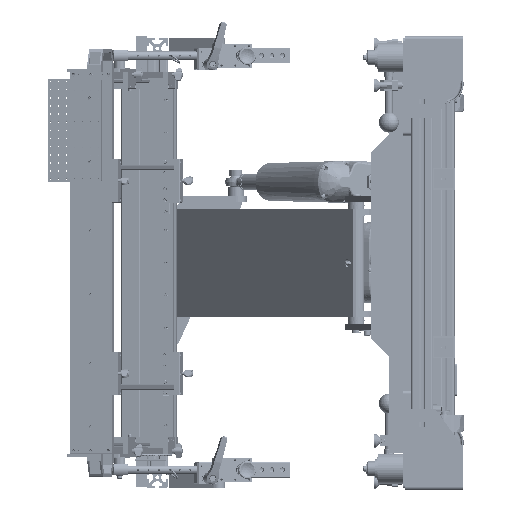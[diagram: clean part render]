
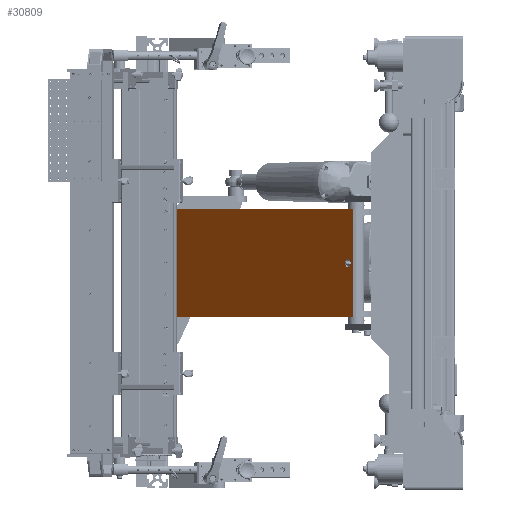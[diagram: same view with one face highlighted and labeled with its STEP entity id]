
A CAD part, left-side view. The second image highlights one B-rep face of the part: STEP entity #30809.
In plain terms, the highlighted planar face has unit normal (-0.615, 0.788, 0) as drawn and (0.602, 0.799, 0) by its records, which use the part's own axes.
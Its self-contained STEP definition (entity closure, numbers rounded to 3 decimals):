
#492 = EDGE_CURVE ( 'NONE', #286478, #315479, #212130, .T. ) ;
#3820 = CARTESIAN_POINT ( 'NONE',  ( 11.735, 15.573, 0. ) ) ;
#4473 = LINE ( 'NONE', #296201, #281857 ) ;
#5375 = EDGE_LOOP ( 'NONE', ( #269131, #78374, #413406, #463788, #254038, #43824, #286595, #334043, #464468, #65296, #356650, #96615, #138640, #103006 ) ) ;
#11046 = CARTESIAN_POINT ( 'NONE',  ( 24.514, 5.944, 100. ) ) ;
#27079 = VECTOR ( 'NONE', #141156, 1000. ) ;
#30809 = ADVANCED_FACE ( 'NONE', ( #276416, #372852 ), #120085, .F. ) ;
#31140 = DIRECTION ( 'NONE',  ( -0.799, 0.602, 0. ) ) ;
#32192 = CARTESIAN_POINT ( 'NONE',  ( -467.446, 376.662, 100. ) ) ;
#34476 = VECTOR ( 'NONE', #68599, 1000. ) ;
#40262 = DIRECTION ( 'NONE',  ( -0.799, 0.602, 0. ) ) ;
#43824 = ORIENTED_EDGE ( 'NONE', *, *, #461066, .F. ) ;
#47338 = VERTEX_POINT ( 'NONE', #155437 ) ;
#49456 = EDGE_LOOP ( 'NONE', ( #218664, #65947 ) ) ;
#50083 = VECTOR ( 'NONE', #153478, 1000. ) ;
#50922 = DIRECTION ( 'NONE',  ( -0.799, 0.602, 0. ) ) ;
#51521 = CIRCLE ( 'NONE', #257672, 8. ) ;
#53490 = CIRCLE ( 'NONE', #172192, 12. ) ;
#53842 = CARTESIAN_POINT ( 'NONE',  ( 5.346, 20.388, 0. ) ) ;
#61465 = LINE ( 'NONE', #406918, #50083 ) ;
#65296 = ORIENTED_EDGE ( 'NONE', *, *, #354716, .F. ) ;
#65947 = ORIENTED_EDGE ( 'NONE', *, *, #363358, .F. ) ;
#68168 = EDGE_CURVE ( 'NONE', #47338, #286478, #4473, .T. ) ;
#68599 = DIRECTION ( 'NONE',  ( -0.799, 0.602, 0. ) ) ;
#70070 = CARTESIAN_POINT ( 'NONE',  ( -467.446, 376.662, -50.5 ) ) ;
#70199 = VECTOR ( 'NONE', #232321, 1000. ) ;
#71430 = CIRCLE ( 'NONE', #316363, 8. ) ;
#76249 = DIRECTION ( 'NONE',  ( 0.602, 0.799, 0. ) ) ;
#78374 = ORIENTED_EDGE ( 'NONE', *, *, #450964, .F. ) ;
#80917 = DIRECTION ( 'NONE',  ( -0.692, 0.521, 0.5 ) ) ;
#83361 = CARTESIAN_POINT ( 'NONE',  ( -439.494, 355.599, -50.5 ) ) ;
#88879 = EDGE_CURVE ( 'NONE', #360337, #301323, #367002, .T. ) ;
#89289 = LINE ( 'NONE', #70070, #27079 ) ;
#96615 = ORIENTED_EDGE ( 'NONE', *, *, #407925, .F. ) ;
#97378 = CARTESIAN_POINT ( 'NONE',  ( -451.474, 364.627, 100. ) ) ;
#98906 = DIRECTION ( 'NONE',  ( 0., 0., -1. ) ) ;
#103006 = ORIENTED_EDGE ( 'NONE', *, *, #300608, .F. ) ;
#107967 = VERTEX_POINT ( 'NONE', #318539 ) ;
#111771 = EDGE_CURVE ( 'NONE', #345150, #107967, #314848, .T. ) ;
#115790 = VECTOR ( 'NONE', #80917, 1000. ) ;
#120085 = PLANE ( 'NONE',  #306187 ) ;
#121630 = DIRECTION ( 'NONE',  ( -0.602, -0.799, 0. ) ) ;
#122147 = CARTESIAN_POINT ( 'NONE',  ( 24.514, 5.944, -100. ) ) ;
#122358 = VECTOR ( 'NONE', #183890, 1000. ) ;
#125194 = VECTOR ( 'NONE', #236715, 1000. ) ;
#134556 = CIRCLE ( 'NONE', #224459, 12. ) ;
#137894 = VECTOR ( 'NONE', #418363, 1000. ) ;
#138640 = ORIENTED_EDGE ( 'NONE', *, *, #434094, .F. ) ;
#141141 = VECTOR ( 'NONE', #98906, 1000. ) ;
#141156 = DIRECTION ( 'NONE',  ( -0.799, 0.602, 0. ) ) ;
#143872 = CARTESIAN_POINT ( 'NONE',  ( -451.474, 364.627, -100. ) ) ;
#147453 = CARTESIAN_POINT ( 'NONE',  ( -467.446, 376.662, -14. ) ) ;
#153478 = DIRECTION ( 'NONE',  ( 0.799, -0.602, 0. ) ) ;
#155437 = CARTESIAN_POINT ( 'NONE',  ( -413.139, 335.739, -62. ) ) ;
#159052 = DIRECTION ( 'NONE',  ( 0.692, -0.521, 0.5 ) ) ;
#172192 = AXIS2_PLACEMENT_3D ( 'NONE', #175808, #429175, #212150 ) ;
#175808 = CARTESIAN_POINT ( 'NONE',  ( -413.139, 335.739, -50. ) ) ;
#183890 = DIRECTION ( 'NONE',  ( 0.799, -0.602, 0. ) ) ;
#188424 = CARTESIAN_POINT ( 'NONE',  ( -423.586, 343.612, -62. ) ) ;
#195398 = CARTESIAN_POINT ( 'NONE',  ( -439.494, 355.599, -25.5 ) ) ;
#200311 = CARTESIAN_POINT ( 'NONE',  ( 24.514, 5.944, 100. ) ) ;
#203497 = CARTESIAN_POINT ( 'NONE',  ( -403.555, 328.517, -50. ) ) ;
#208261 = VECTOR ( 'NONE', #159052, 1000. ) ;
#212130 = LINE ( 'NONE', #188424, #115790 ) ;
#212150 = DIRECTION ( 'NONE',  ( -0.799, 0.602, 0. ) ) ;
#218664 = ORIENTED_EDGE ( 'NONE', *, *, #280234, .F. ) ;
#219375 = VERTEX_POINT ( 'NONE', #328737 ) ;
#222756 = EDGE_CURVE ( 'NONE', #359539, #236400, #237365, .T. ) ;
#224459 = AXIS2_PLACEMENT_3D ( 'NONE', #292895, #76249, #329348 ) ;
#230822 = CARTESIAN_POINT ( 'NONE',  ( -403.555, 328.517, -26. ) ) ;
#232321 = DIRECTION ( 'NONE',  ( 0.799, -0.602, 0. ) ) ;
#234212 = LINE ( 'NONE', #416794, #137894 ) ;
#236400 = VERTEX_POINT ( 'NONE', #143872 ) ;
#236715 = DIRECTION ( 'NONE',  ( 0., 0., 1. ) ) ;
#237365 = LINE ( 'NONE', #97378, #141141 ) ;
#247834 = DIRECTION ( 'NONE',  ( 0.602, 0.799, 0. ) ) ;
#249609 = LINE ( 'NONE', #32192, #34476 ) ;
#254038 = ORIENTED_EDGE ( 'NONE', *, *, #296955, .F. ) ;
#256990 = DIRECTION ( 'NONE',  ( 0.602, 0.799, 0. ) ) ;
#257672 = AXIS2_PLACEMENT_3D ( 'NONE', #464858, #247834, #31140 ) ;
#269131 = ORIENTED_EDGE ( 'NONE', *, *, #222756, .F. ) ;
#276416 = FACE_OUTER_BOUND ( 'NONE', #5375, .T. ) ;
#280234 = EDGE_CURVE ( 'NONE', #405594, #466606, #71430, .T. ) ;
#281857 = VECTOR ( 'NONE', #50922, 1000. ) ;
#282871 = CARTESIAN_POINT ( 'NONE',  ( -423.586, 343.612, -14. ) ) ;
#286478 = VERTEX_POINT ( 'NONE', #395775 ) ;
#286595 = ORIENTED_EDGE ( 'NONE', *, *, #399831, .F. ) ;
#292895 = CARTESIAN_POINT ( 'NONE',  ( -413.139, 335.739, -26. ) ) ;
#296201 = CARTESIAN_POINT ( 'NONE',  ( -467.446, 376.662, -62. ) ) ;
#296955 = EDGE_CURVE ( 'NONE', #355158, #47338, #53490, .T. ) ;
#300608 = EDGE_CURVE ( 'NONE', #236400, #418225, #347458, .T. ) ;
#301323 = VERTEX_POINT ( 'NONE', #392915 ) ;
#306187 = AXIS2_PLACEMENT_3D ( 'NONE', #338451, #121630, #374967 ) ;
#314848 = LINE ( 'NONE', #147453, #122358 ) ;
#315479 = VERTEX_POINT ( 'NONE', #83361 ) ;
#316363 = AXIS2_PLACEMENT_3D ( 'NONE', #3820, #256990, #40262 ) ;
#318539 = CARTESIAN_POINT ( 'NONE',  ( -413.139, 335.739, -14. ) ) ;
#320072 = VERTEX_POINT ( 'NONE', #11046 ) ;
#328737 = CARTESIAN_POINT ( 'NONE',  ( -439.494, 355.599, -25.5 ) ) ;
#329348 = DIRECTION ( 'NONE',  ( -0.799, 0.602, 0. ) ) ;
#334043 = ORIENTED_EDGE ( 'NONE', *, *, #111771, .F. ) ;
#338451 = CARTESIAN_POINT ( 'NONE',  ( -467.446, 376.662, 100. ) ) ;
#345150 = VERTEX_POINT ( 'NONE', #282871 ) ;
#346036 = VERTEX_POINT ( 'NONE', #230822 ) ;
#347458 = LINE ( 'NONE', #449299, #70199 ) ;
#354716 = EDGE_CURVE ( 'NONE', #301323, #219375, #61465, .T. ) ;
#355158 = VERTEX_POINT ( 'NONE', #203497 ) ;
#356650 = ORIENTED_EDGE ( 'NONE', *, *, #88879, .F. ) ;
#359539 = VERTEX_POINT ( 'NONE', #391951 ) ;
#360337 = VERTEX_POINT ( 'NONE', #448308 ) ;
#363358 = EDGE_CURVE ( 'NONE', #466606, #405594, #51521, .T. ) ;
#367002 = LINE ( 'NONE', #380081, #463378 ) ;
#372852 = FACE_BOUND ( 'NONE', #49456, .T. ) ;
#374967 = DIRECTION ( 'NONE',  ( 0.799, -0.602, 0. ) ) ;
#380081 = CARTESIAN_POINT ( 'NONE',  ( -451.474, 364.627, 100. ) ) ;
#391951 = CARTESIAN_POINT ( 'NONE',  ( -451.474, 364.627, -50.5 ) ) ;
#392915 = CARTESIAN_POINT ( 'NONE',  ( -451.474, 364.627, -25.5 ) ) ;
#395775 = CARTESIAN_POINT ( 'NONE',  ( -423.586, 343.612, -62. ) ) ;
#399831 = EDGE_CURVE ( 'NONE', #107967, #346036, #134556, .T. ) ;
#401036 = LINE ( 'NONE', #195398, #208261 ) ;
#405594 = VERTEX_POINT ( 'NONE', #53842 ) ;
#406918 = CARTESIAN_POINT ( 'NONE',  ( -467.446, 376.662, -25.5 ) ) ;
#407925 = EDGE_CURVE ( 'NONE', #320072, #360337, #249609, .T. ) ;
#413406 = ORIENTED_EDGE ( 'NONE', *, *, #492, .F. ) ;
#414199 = LINE ( 'NONE', #200311, #125194 ) ;
#416794 = CARTESIAN_POINT ( 'NONE',  ( -403.555, 328.517, 100. ) ) ;
#418225 = VERTEX_POINT ( 'NONE', #122147 ) ;
#418363 = DIRECTION ( 'NONE',  ( 0., 0., -1. ) ) ;
#429175 = DIRECTION ( 'NONE',  ( 0.602, 0.799, 0. ) ) ;
#434094 = EDGE_CURVE ( 'NONE', #418225, #320072, #414199, .T. ) ;
#448308 = CARTESIAN_POINT ( 'NONE',  ( -451.474, 364.627, 100. ) ) ;
#449299 = CARTESIAN_POINT ( 'NONE',  ( -467.446, 376.662, -100. ) ) ;
#450964 = EDGE_CURVE ( 'NONE', #315479, #359539, #89289, .T. ) ;
#452934 = DIRECTION ( 'NONE',  ( 0., 0., -1. ) ) ;
#459844 = EDGE_CURVE ( 'NONE', #219375, #345150, #401036, .T. ) ;
#461066 = EDGE_CURVE ( 'NONE', #346036, #355158, #234212, .T. ) ;
#463378 = VECTOR ( 'NONE', #452934, 1000. ) ;
#463788 = ORIENTED_EDGE ( 'NONE', *, *, #68168, .F. ) ;
#464468 = ORIENTED_EDGE ( 'NONE', *, *, #459844, .F. ) ;
#464858 = CARTESIAN_POINT ( 'NONE',  ( 11.735, 15.573, 0. ) ) ;
#466606 = VERTEX_POINT ( 'NONE', #467371 ) ;
#467371 = CARTESIAN_POINT ( 'NONE',  ( 18.124, 10.759, 0. ) ) ;
